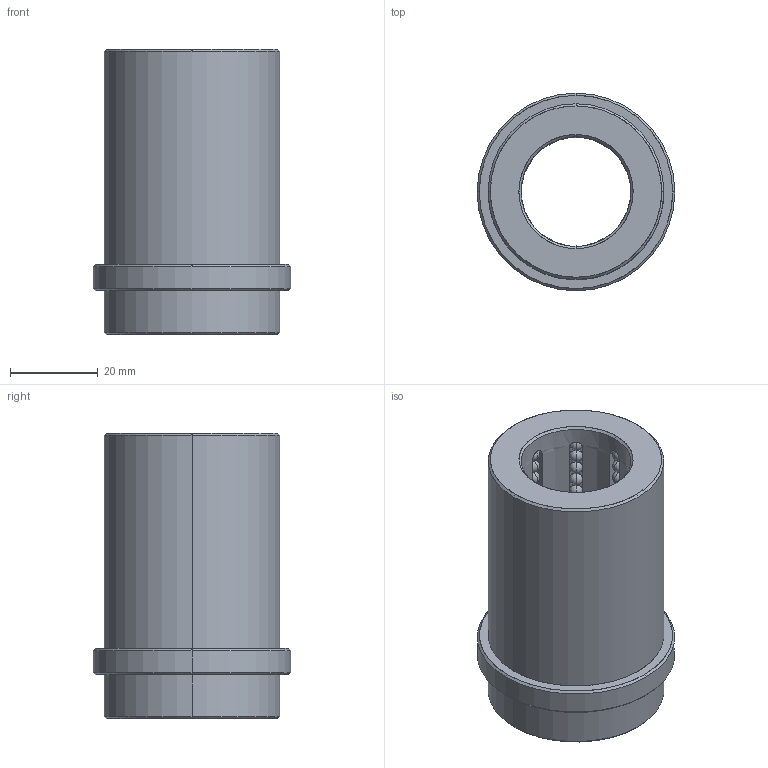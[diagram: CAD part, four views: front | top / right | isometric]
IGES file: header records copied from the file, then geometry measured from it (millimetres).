
Start section: START RECORD GO HERE.
Global section: file name: B8022555.igs; native system: DASSAULT SYSTEMES CATIA V5 R20 - www.3ds.com; preprocessor: CATIA Version 5 Release 20 ; author: Utente; organization: NB04-ASUS; date: 20200419.150007; units: millimetre
Bounding box: 45 x 45 x 65 mm (x, y, z)
Surface area: 22249.2 mm2 (no closed solid volume)
Topology: 0 solids, 0 shells, 652 faces, 2676 edges, 1524 vertices
Faces by surface type: revolution 624, plane 28
